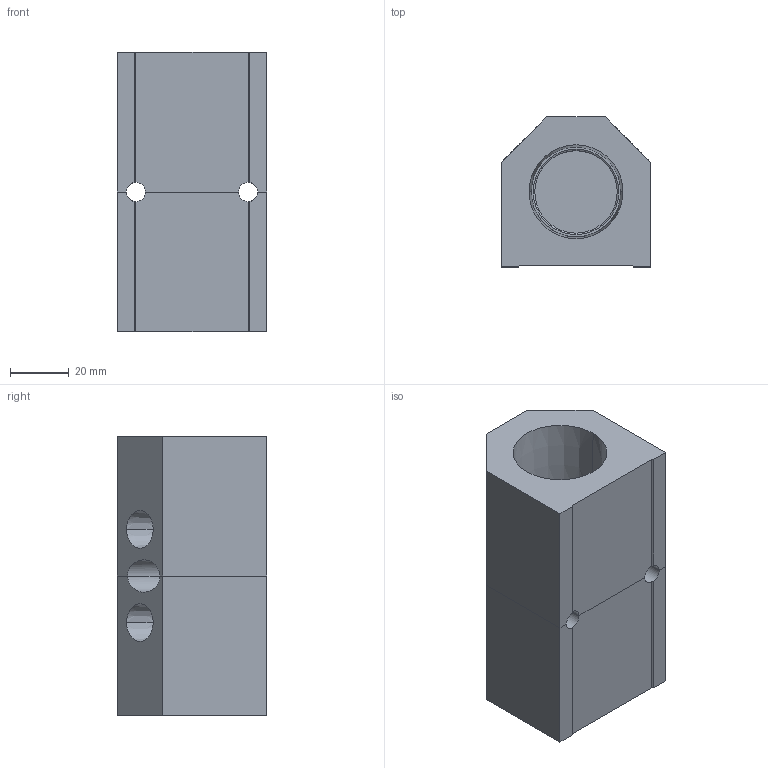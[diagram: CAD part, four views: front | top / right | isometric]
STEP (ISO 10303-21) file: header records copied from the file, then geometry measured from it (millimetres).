
FILE_DESCRIPTION (( 'STEP AP214' ), '1' );
FILE_NAME ('ALM2BD-N4N16-95RB.STEP', '2023-11-02T06:07:54', ( '' ), ( '' ), 'SwSTEP 2.0', 'SolidWorks 2020', '' );
FILE_SCHEMA (( 'AUTOMOTIVE_DESIGN' ));
Length unit declared in the file: millimetre
Products named in the file (1): ALM2BD-N4N16-95RB
Bounding box: 50.8 x 50.8 x 95 mm (x, y, z)
Volume: 147077.3 mm3; surface area: 36747.6 mm2
Topology: 2 solids, 2 shells, 328 faces, 851 edges, 564 vertices
Faces by surface type: plane 228, bspline 64, cylinder 20, cone 16
Entity records: 17210 total; most frequent: CARTESIAN_POINT 6660, ORIENTED_EDGE 1702, DIRECTION 1287, EDGE_CURVE 851, LINE 653, VECTOR 653, VERTEX_POINT 564, EDGE_LOOP 373
